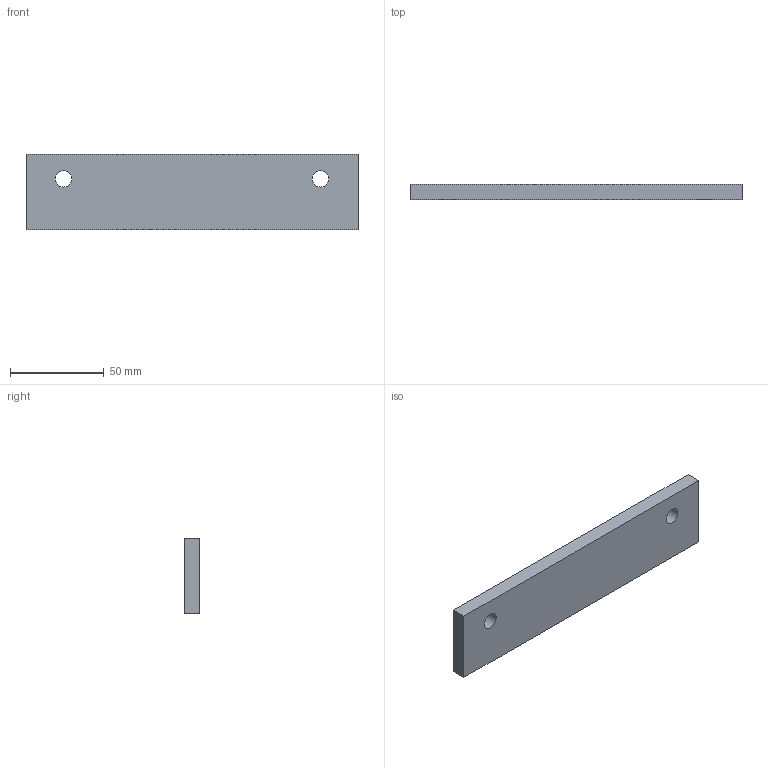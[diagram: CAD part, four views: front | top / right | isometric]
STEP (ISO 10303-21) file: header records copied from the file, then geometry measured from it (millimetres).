
FILE_DESCRIPTION(('Open CASCADE Model'),'2;1');
FILE_NAME('Open CASCADE Shape Model','2026-10-04T02:31:44',('Author'),( 'Open CASCADE'),'Open CASCADE STEP processor 8.0','Open CASCADE 8.0' ,'Unknown');
FILE_SCHEMA(('AUTOMOTIVE_DESIGN { 1 0 10303 214 1 1 1 1 }'));
Length unit declared in the file: millimetre
Products named in the file (1): Open CASCADE STEP translator 8.0 334
Bounding box: 177 x 8 x 40 mm (x, y, z)
Volume: 55666.9 mm3; surface area: 17831.1 mm2
Topology: 1 solids, 1 shells, 8 faces, 18 edges, 12 vertices
Faces by surface type: plane 6, cylinder 2
Full cylindrical faces by diameter (mm): 8.8 x2
Entity records: 478 total; most frequent: DIRECTION 76, CARTESIAN_POINT 75, LINE 46, VECTOR 46, ORIENTED_EDGE 36, PCURVE 36, DEFINITIONAL_REPRESENTATION 36, EDGE_CURVE 18
